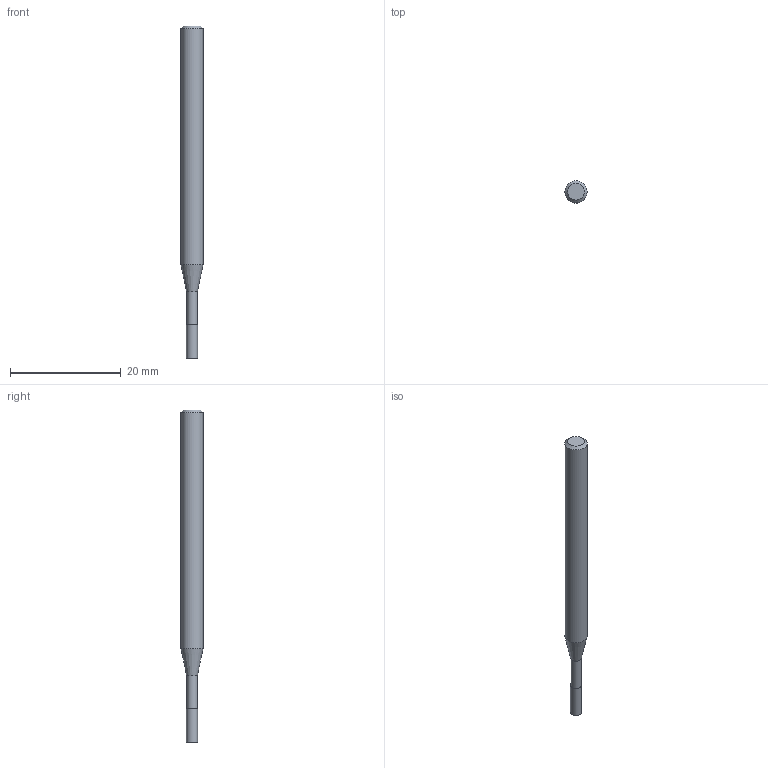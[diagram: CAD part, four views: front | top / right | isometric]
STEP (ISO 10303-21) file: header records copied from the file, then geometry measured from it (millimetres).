
FILE_DESCRIPTION((''),'2;1');
FILE_NAME('C:\Users\nsx150\Desktop\RSE230_20210427\01-00644-02012 RSE230 D2X6X12.step','2021-05-07T14:53:40',(''),(''),'STEP Write','Mastercam 2021 ... CNC Software, Inc.','');
FILE_SCHEMA(('AUTOMOTIVE_DESIGN'));
Length unit declared in the file: millimetre
Products named in the file (1): None
Bounding box: 4 x 4 x 60 mm (x, y, z)
Volume: 612.4 mm3; surface area: 680.6 mm2
Topology: 2 solids, 2 shells, 9 faces, 12 edges, 7 vertices
Faces by surface type: plane 4, cylinder 3, cone 2
Full cylindrical faces by diameter (mm): 1.94 x1, 2 x1, 4 x1
Entity records: 211 total; most frequent: DIRECTION 36, CARTESIAN_POINT 25, AXIS2_PLACEMENT_3D 18, ORIENTED_EDGE 14, EDGE_LOOP 14, STYLED_ITEM 12, ADVANCED_FACE 9, FACE_BOUND 8
